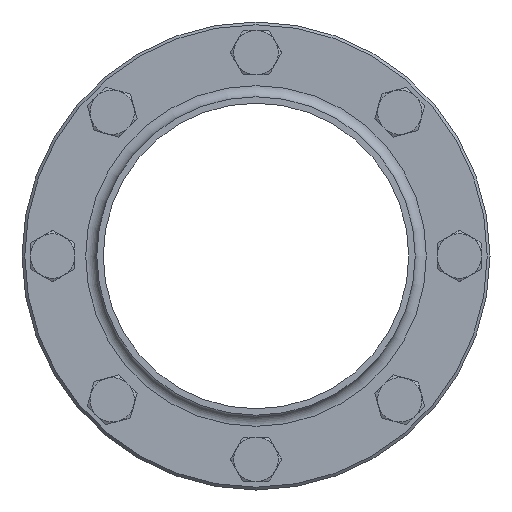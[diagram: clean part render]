
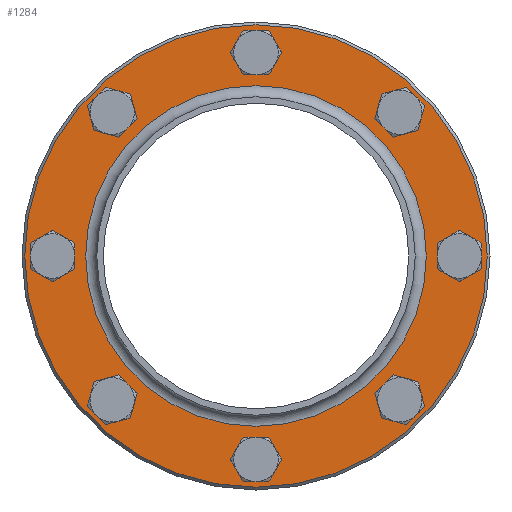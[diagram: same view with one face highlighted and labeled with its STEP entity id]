
A CAD part, front view. The second image highlights one B-rep face of the part: STEP entity #1284.
In plain terms, the highlighted planar face has unit normal (0, -1, 0).
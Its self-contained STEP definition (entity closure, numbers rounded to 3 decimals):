
#184=PLANE('',#1407);
#251=FACE_BOUND('',#457,.T.);
#252=FACE_BOUND('',#458,.T.);
#253=FACE_BOUND('',#459,.T.);
#254=FACE_BOUND('',#460,.T.);
#255=FACE_BOUND('',#461,.T.);
#256=FACE_BOUND('',#462,.T.);
#257=FACE_BOUND('',#463,.T.);
#258=FACE_BOUND('',#464,.T.);
#259=FACE_BOUND('',#465,.T.);
#340=FACE_OUTER_BOUND('',#456,.T.);
#456=EDGE_LOOP('',(#968));
#457=EDGE_LOOP('',(#969));
#458=EDGE_LOOP('',(#970));
#459=EDGE_LOOP('',(#971));
#460=EDGE_LOOP('',(#972));
#461=EDGE_LOOP('',(#973));
#462=EDGE_LOOP('',(#974));
#463=EDGE_LOOP('',(#975));
#464=EDGE_LOOP('',(#976));
#465=EDGE_LOOP('',(#977));
#587=CIRCLE('',#1355,5.5);
#589=CIRCLE('',#1358,5.5);
#591=CIRCLE('',#1361,5.5);
#593=CIRCLE('',#1364,5.5);
#595=CIRCLE('',#1367,5.5);
#597=CIRCLE('',#1370,5.5);
#599=CIRCLE('',#1373,5.5);
#601=CIRCLE('',#1376,5.5);
#617=CIRCLE('',#1406,83.);
#618=CIRCLE('',#1408,61.15);
#675=VERTEX_POINT('',#1970);
#677=VERTEX_POINT('',#1975);
#679=VERTEX_POINT('',#1980);
#681=VERTEX_POINT('',#1985);
#683=VERTEX_POINT('',#1990);
#685=VERTEX_POINT('',#1995);
#687=VERTEX_POINT('',#2000);
#689=VERTEX_POINT('',#2005);
#705=VERTEX_POINT('',#2051);
#706=VERTEX_POINT('',#2054);
#786=EDGE_CURVE('',#675,#675,#587,.T.);
#788=EDGE_CURVE('',#677,#677,#589,.T.);
#790=EDGE_CURVE('',#679,#679,#591,.T.);
#792=EDGE_CURVE('',#681,#681,#593,.T.);
#794=EDGE_CURVE('',#683,#683,#595,.T.);
#796=EDGE_CURVE('',#685,#685,#597,.T.);
#798=EDGE_CURVE('',#687,#687,#599,.T.);
#800=EDGE_CURVE('',#689,#689,#601,.T.);
#816=EDGE_CURVE('',#705,#705,#617,.T.);
#817=EDGE_CURVE('',#706,#706,#618,.T.);
#968=ORIENTED_EDGE('',*,*,#816,.T.);
#969=ORIENTED_EDGE('',*,*,#786,.T.);
#970=ORIENTED_EDGE('',*,*,#788,.T.);
#971=ORIENTED_EDGE('',*,*,#790,.T.);
#972=ORIENTED_EDGE('',*,*,#792,.T.);
#973=ORIENTED_EDGE('',*,*,#794,.T.);
#974=ORIENTED_EDGE('',*,*,#796,.T.);
#975=ORIENTED_EDGE('',*,*,#798,.T.);
#976=ORIENTED_EDGE('',*,*,#800,.T.);
#977=ORIENTED_EDGE('',*,*,#817,.F.);
#1284=ADVANCED_FACE('',(#340,#251,#252,#253,#254,#255,#256,#257,#258,#259),
#184,.T.);
#1355=AXIS2_PLACEMENT_3D('',#1971,#1556,#1557);
#1358=AXIS2_PLACEMENT_3D('',#1976,#1562,#1563);
#1361=AXIS2_PLACEMENT_3D('',#1981,#1568,#1569);
#1364=AXIS2_PLACEMENT_3D('',#1986,#1574,#1575);
#1367=AXIS2_PLACEMENT_3D('',#1991,#1580,#1581);
#1370=AXIS2_PLACEMENT_3D('',#1996,#1586,#1587);
#1373=AXIS2_PLACEMENT_3D('',#2001,#1592,#1593);
#1376=AXIS2_PLACEMENT_3D('',#2006,#1598,#1599);
#1406=AXIS2_PLACEMENT_3D('',#2052,#1658,#1659);
#1407=AXIS2_PLACEMENT_3D('',#2053,#1660,#1661);
#1408=AXIS2_PLACEMENT_3D('',#2055,#1662,#1663);
#1556=DIRECTION('center_axis',(0.,1.,0.));
#1557=DIRECTION('ref_axis',(-0.707,0.,0.707));
#1562=DIRECTION('center_axis',(0.,1.,0.));
#1563=DIRECTION('ref_axis',(0.,0.,1.));
#1568=DIRECTION('center_axis',(0.,1.,0.));
#1569=DIRECTION('ref_axis',(0.707,0.,0.707));
#1574=DIRECTION('center_axis',(0.,1.,0.));
#1575=DIRECTION('ref_axis',(1.,0.,0.));
#1580=DIRECTION('center_axis',(0.,1.,0.));
#1581=DIRECTION('ref_axis',(0.707,0.,-0.707));
#1586=DIRECTION('center_axis',(0.,1.,0.));
#1587=DIRECTION('ref_axis',(0.,0.,-1.));
#1592=DIRECTION('center_axis',(0.,1.,0.));
#1593=DIRECTION('ref_axis',(-0.707,0.,-0.707));
#1598=DIRECTION('center_axis',(0.,1.,0.));
#1599=DIRECTION('ref_axis',(-1.,0.,0.));
#1658=DIRECTION('center_axis',(0.,-1.,0.));
#1659=DIRECTION('ref_axis',(1.,0.,0.));
#1660=DIRECTION('center_axis',(0.,-1.,0.));
#1661=DIRECTION('ref_axis',(0.,0.,-1.));
#1662=DIRECTION('center_axis',(0.,-1.,0.));
#1663=DIRECTION('ref_axis',(1.,0.,0.));
#1970=CARTESIAN_POINT('',(-47.73,44.,-55.508));
#1971=CARTESIAN_POINT('Origin',(-51.619,44.,-51.619));
#1975=CARTESIAN_POINT('',(-73.,44.,-5.5));
#1976=CARTESIAN_POINT('Origin',(-73.,44.,0.));
#1980=CARTESIAN_POINT('',(-55.508,44.,47.73));
#1981=CARTESIAN_POINT('Origin',(-51.619,44.,51.619));
#1985=CARTESIAN_POINT('',(-5.5,44.,73.));
#1986=CARTESIAN_POINT('Origin',(0.,44.,73.));
#1990=CARTESIAN_POINT('',(47.73,44.,55.508));
#1991=CARTESIAN_POINT('Origin',(51.619,44.,51.619));
#1995=CARTESIAN_POINT('',(73.,44.,5.5));
#1996=CARTESIAN_POINT('Origin',(73.,44.,0.));
#2000=CARTESIAN_POINT('',(55.508,44.,-47.73));
#2001=CARTESIAN_POINT('Origin',(51.619,44.,-51.619));
#2005=CARTESIAN_POINT('',(5.5,44.,-73.));
#2006=CARTESIAN_POINT('Origin',(0.,44.,-73.));
#2051=CARTESIAN_POINT('',(83.,44.,0.));
#2052=CARTESIAN_POINT('Origin',(0.,44.,0.));
#2053=CARTESIAN_POINT('Origin',(72.075,44.,0.));
#2054=CARTESIAN_POINT('',(61.15,44.,0.));
#2055=CARTESIAN_POINT('Origin',(0.,44.,0.));
